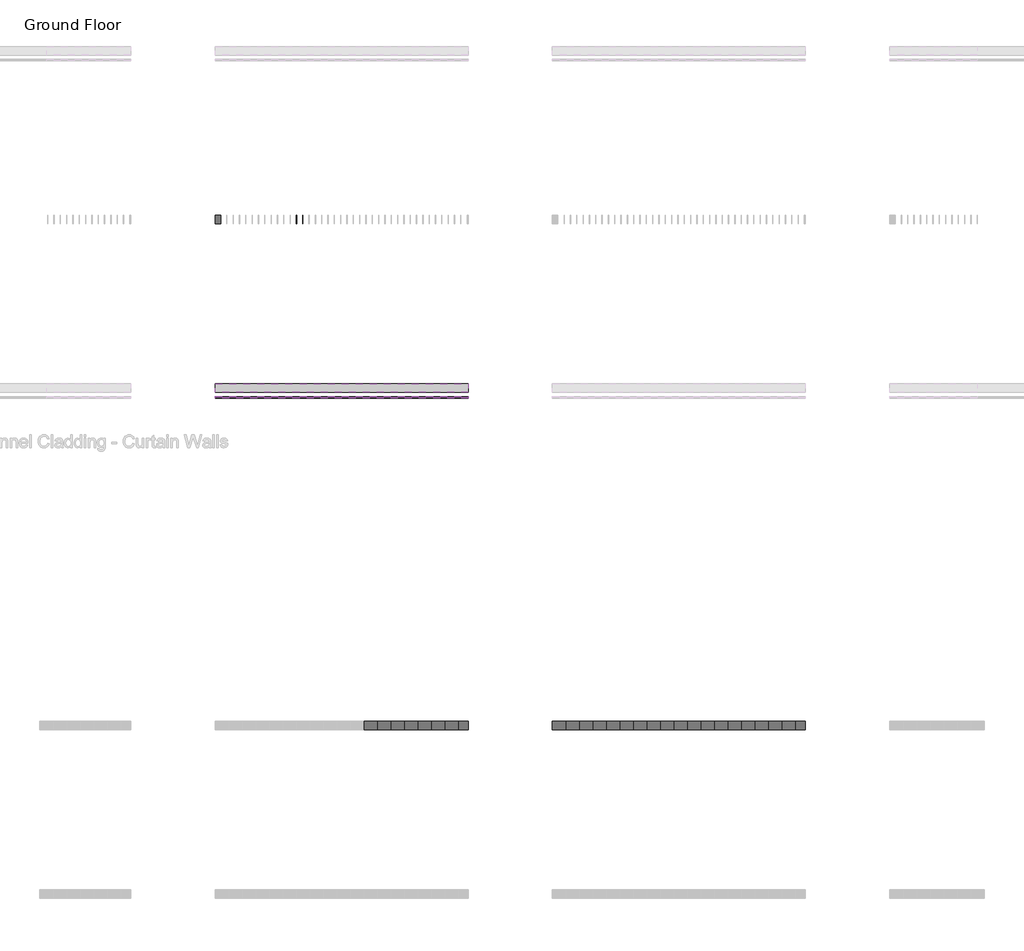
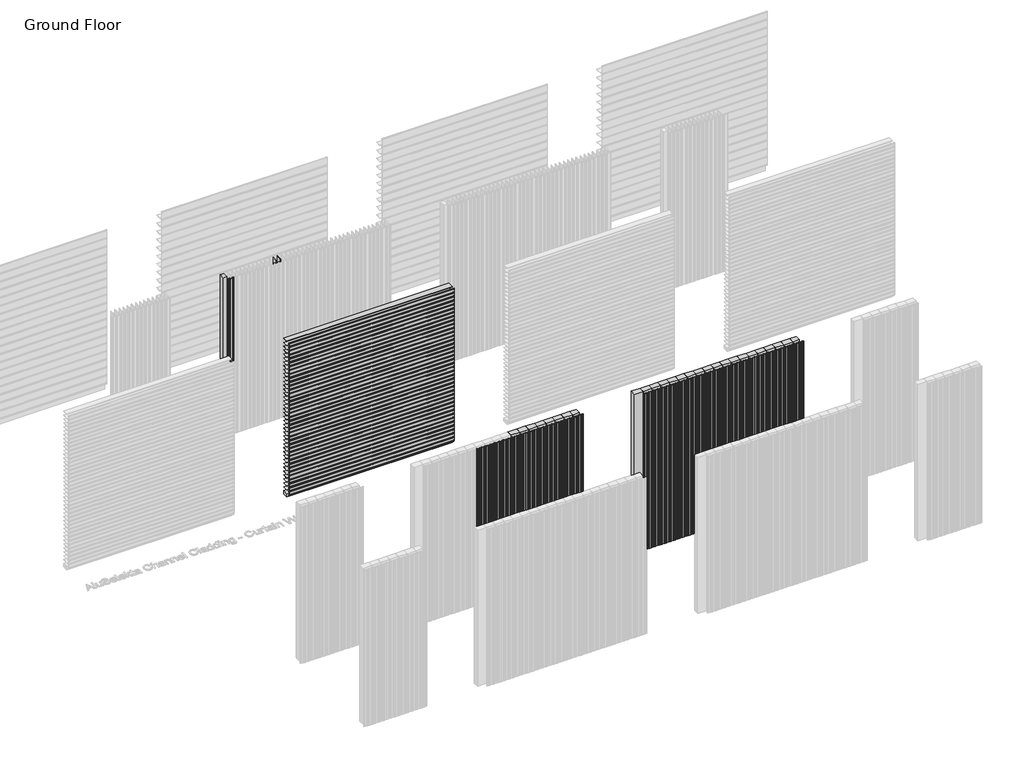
# One storey, part 29 of 350: 70 members, 70 plates.
"""IFC4 building model written with IfcOpenShell, lengths in millimetres."""

from ifc_helpers import new_model, si_unit, origin, place, context, project, spatial, transform, mapped, element, save
from components import rectangular_mullion_73ab8564, rectangular_mullion_894c3da7, empty_system_panel_empty_02c6fd44, empty_system_panel_empty_3b645525, empty_system_panel_empty_df7ddcff, empty_system_panel_empty_81cf2ed3, empty_system_panel_empty_a36746fc, empty_system_panel_empty_86793474, empty_system_panel_empty_27b459cb

model = new_model("IFC4")

# Units and contexts
model_context = context("Model", 3, world=origin())
ifc_project = project(units=[si_unit("LENGTHUNIT", "METRE", prefix="MILLI")], contexts=[model_context])

# Site, building, storey
site = spatial("IfcSite", under=ifc_project)
building = spatial("IfcBuilding", under=site)
storey = spatial("IfcBuildingStorey", under=building, Name="Ground Floor", Elevation=0.0)

# Members
placement = place(None, origin())
rectangular_mullion_shape = rectangular_mullion_73ab8564(model_context)
element("IfcMember", 1, ObjectType="Rectangular Mullion : Cladding_Aluminium_Modinex_AluSelekta_Castelation_ScreenClad_160Ultra_Cedar", at=placement, inside=storey, context=model_context, shape_type="MappedRepresentation", body=[
    mapped(rectangular_mullion_shape, transform((34036.4361642, 8968.2978302, 0.0), x_axis=(1.0, 0.0, 0.0), y_axis=(0.0, -1.0, 0.0), z_axis=(0.0, 0.0, -1.0))),
])
element("IfcMember", 2, ObjectType="Rectangular Mullion : Cladding_Aluminium_Modinex_AluSelekta_Castelation_ScreenClad_160Ultra_Cedar", at=placement, inside=storey, context=model_context, shape_type="MappedRepresentation", body=[
    mapped(rectangular_mullion_shape, transform((34196.4361642, 8968.2978302, 0.0), x_axis=(1.0, 0.0, 0.0), y_axis=(0.0, -1.0, 0.0), z_axis=(0.0, 0.0, -1.0))),
])
element("IfcMember", 3, ObjectType="Rectangular Mullion : Cladding_Aluminium_Modinex_AluSelekta_Castelation_ScreenClad_160Ultra_Cedar", at=placement, inside=storey, context=model_context, shape_type="MappedRepresentation", body=[
    mapped(rectangular_mullion_shape, transform((34356.4361642, 8968.2978302, 0.0), x_axis=(1.0, 0.0, 0.0), y_axis=(0.0, -1.0, 0.0), z_axis=(0.0, 0.0, -1.0))),
])
element("IfcMember", 4, ObjectType="Rectangular Mullion : Cladding_Aluminium_Modinex_AluSelekta_Castelation_ScreenClad_160Ultra_Cedar", at=placement, inside=storey, context=model_context, shape_type="MappedRepresentation", body=[
    mapped(rectangular_mullion_shape, transform((34516.4361642, 8968.2978302, 0.0), x_axis=(1.0, 0.0, 0.0), y_axis=(0.0, -1.0, 0.0), z_axis=(0.0, 0.0, -1.0))),
])
element("IfcMember", 5, ObjectType="Rectangular Mullion : Cladding_Aluminium_Modinex_AluSelekta_Castelation_ScreenClad_160Ultra_Cedar", at=placement, inside=storey, context=model_context, shape_type="MappedRepresentation", body=[
    mapped(rectangular_mullion_shape, transform((34676.4361642, 8968.2978302, 0.0), x_axis=(1.0, 0.0, 0.0), y_axis=(0.0, -1.0, 0.0), z_axis=(0.0, 0.0, -1.0))),
])
element("IfcMember", 6, ObjectType="Rectangular Mullion : Cladding_Aluminium_Modinex_AluSelekta_Castelation_ScreenClad_160Ultra_Cedar", at=placement, inside=storey, context=model_context, shape_type="MappedRepresentation", body=[
    mapped(rectangular_mullion_shape, transform((34836.4361642, 8968.2978302, 0.0), x_axis=(1.0, 0.0, 0.0), y_axis=(0.0, -1.0, 0.0), z_axis=(0.0, 0.0, -1.0))),
])
element("IfcMember", 7, ObjectType="Rectangular Mullion : Cladding_Aluminium_Modinex_AluSelekta_Castelation_ScreenClad_160Ultra_Cedar", at=placement, inside=storey, context=model_context, shape_type="MappedRepresentation", body=[
    mapped(rectangular_mullion_shape, transform((34996.4361642, 8968.2978302, 0.0), x_axis=(1.0, 0.0, 0.0), y_axis=(0.0, -1.0, 0.0), z_axis=(0.0, 0.0, -1.0))),
])
element("IfcMember", 8, ObjectType="Rectangular Mullion : Cladding_Aluminium_Modinex_AluSelekta_Castelation_ScreenClad_160Ultra_Cedar", at=placement, inside=storey, context=model_context, shape_type="MappedRepresentation", body=[
    mapped(rectangular_mullion_shape, transform((35156.4361642, 8968.2978302, 0.0), x_axis=(1.0, 0.0, 0.0), y_axis=(0.0, -1.0, 0.0), z_axis=(0.0, 0.0, -1.0))),
])
element("IfcMember", 9, ObjectType="Rectangular Mullion : Cladding_Aluminium_Modinex_AluSelekta_Castelation_ScreenClad_160Ultra_Cedar", at=placement, inside=storey, context=model_context, shape_type="MappedRepresentation", body=[
    mapped(rectangular_mullion_shape, transform((35316.4361642, 8968.2978302, 0.0), x_axis=(1.0, 0.0, 0.0), y_axis=(0.0, -1.0, 0.0), z_axis=(0.0, 0.0, -1.0))),
])
element("IfcMember", 10, ObjectType="Rectangular Mullion : Cladding_Aluminium_Modinex_AluSelekta_Castelation_ScreenClad_160Ultra_Cedar", at=placement, inside=storey, context=model_context, shape_type="MappedRepresentation", body=[
    mapped(rectangular_mullion_shape, transform((35476.4361642, 8968.2978302, 0.0), x_axis=(1.0, 0.0, 0.0), y_axis=(0.0, -1.0, 0.0), z_axis=(0.0, 0.0, -1.0))),
])
element("IfcMember", 11, ObjectType="Rectangular Mullion : Cladding_Aluminium_Modinex_AluSelekta_Castelation_ScreenClad_160Ultra_Cedar", at=placement, inside=storey, context=model_context, shape_type="MappedRepresentation", body=[
    mapped(rectangular_mullion_shape, transform((35636.4361642, 8968.2978302, 0.0), x_axis=(1.0, 0.0, 0.0), y_axis=(0.0, -1.0, 0.0), z_axis=(0.0, 0.0, -1.0))),
])
element("IfcMember", 12, ObjectType="Rectangular Mullion : Cladding_Aluminium_Modinex_AluSelekta_Castelation_ScreenClad_160Ultra_Cedar", at=placement, inside=storey, context=model_context, shape_type="MappedRepresentation", body=[
    mapped(rectangular_mullion_shape, transform((35796.4361642, 8968.2978302, 0.0), x_axis=(1.0, 0.0, 0.0), y_axis=(0.0, -1.0, 0.0), z_axis=(0.0, 0.0, -1.0))),
])
element("IfcMember", 13, ObjectType="Rectangular Mullion : Cladding_Aluminium_Modinex_AluSelekta_Castelation_ScreenClad_160Ultra_EnglishOak", at=placement, inside=storey, context=model_context, shape_type="MappedRepresentation", body=[
    mapped(rectangular_mullion_shape, transform((37076.4361642, 8968.2978302, 0.0), x_axis=(1.0, 0.0, 0.0), y_axis=(0.0, -1.0, 0.0), z_axis=(0.0, 0.0, -1.0))),
])
element("IfcMember", 14, ObjectType="Rectangular Mullion : Cladding_Aluminium_Modinex_AluSelekta_Castelation_ScreenClad_160Ultra_EnglishOak", at=placement, inside=storey, context=model_context, shape_type="MappedRepresentation", body=[
    mapped(rectangular_mullion_shape, transform((37236.4361642, 8968.2978302, 0.0), x_axis=(1.0, 0.0, 0.0), y_axis=(0.0, -1.0, 0.0), z_axis=(0.0, 0.0, -1.0))),
])
element("IfcMember", 15, ObjectType="Rectangular Mullion : Cladding_Aluminium_Modinex_AluSelekta_Castelation_ScreenClad_160Ultra_EnglishOak", at=placement, inside=storey, context=model_context, shape_type="MappedRepresentation", body=[
    mapped(rectangular_mullion_shape, transform((37396.4361642, 8968.2978302, 0.0), x_axis=(1.0, 0.0, 0.0), y_axis=(0.0, -1.0, 0.0), z_axis=(0.0, 0.0, -1.0))),
])
element("IfcMember", 16, ObjectType="Rectangular Mullion : Cladding_Aluminium_Modinex_AluSelekta_Castelation_ScreenClad_160Ultra_EnglishOak", at=placement, inside=storey, context=model_context, shape_type="MappedRepresentation", body=[
    mapped(rectangular_mullion_shape, transform((37556.4361642, 8968.2978302, 0.0), x_axis=(1.0, 0.0, 0.0), y_axis=(0.0, -1.0, 0.0), z_axis=(0.0, 0.0, -1.0))),
])
element("IfcMember", 17, ObjectType="Rectangular Mullion : Cladding_Aluminium_Modinex_AluSelekta_Castelation_ScreenClad_160Ultra_EnglishOak", at=placement, inside=storey, context=model_context, shape_type="MappedRepresentation", body=[
    mapped(rectangular_mullion_shape, transform((37716.4361642, 8968.2978302, 0.0), x_axis=(1.0, 0.0, 0.0), y_axis=(0.0, -1.0, 0.0), z_axis=(0.0, 0.0, -1.0))),
])
element("IfcMember", 18, ObjectType="Rectangular Mullion : Cladding_Aluminium_Modinex_AluSelekta_Castelation_ScreenClad_160Ultra_EnglishOak", at=placement, inside=storey, context=model_context, shape_type="MappedRepresentation", body=[
    mapped(rectangular_mullion_shape, transform((37876.4361642, 8968.2978302, 0.0), x_axis=(1.0, 0.0, 0.0), y_axis=(0.0, -1.0, 0.0), z_axis=(0.0, 0.0, -1.0))),
])
element("IfcMember", 19, ObjectType="Rectangular Mullion : Cladding_Aluminium_Modinex_AluSelekta_Castelation_ScreenClad_160Ultra_EnglishOak", at=placement, inside=storey, context=model_context, shape_type="MappedRepresentation", body=[
    mapped(rectangular_mullion_shape, transform((38036.4361642, 8968.2978302, 0.0), x_axis=(1.0, 0.0, 0.0), y_axis=(0.0, -1.0, 0.0), z_axis=(0.0, 0.0, -1.0))),
])
element("IfcMember", 20, ObjectType="Rectangular Mullion : Cladding_Aluminium_Modinex_AluSelekta_Castelation_ScreenClad_160Ultra_EnglishOak", at=placement, inside=storey, context=model_context, shape_type="MappedRepresentation", body=[
    mapped(rectangular_mullion_shape, transform((38196.4361642, 8968.2978302, 0.0), x_axis=(1.0, 0.0, 0.0), y_axis=(0.0, -1.0, 0.0), z_axis=(0.0, 0.0, -1.0))),
])
element("IfcMember", 21, ObjectType="Rectangular Mullion : Cladding_Aluminium_Modinex_AluSelekta_Castelation_ScreenClad_160Ultra_EnglishOak", at=placement, inside=storey, context=model_context, shape_type="MappedRepresentation", body=[
    mapped(rectangular_mullion_shape, transform((38356.4361642, 8968.2978302, 0.0), x_axis=(1.0, 0.0, 0.0), y_axis=(0.0, -1.0, 0.0), z_axis=(0.0, 0.0, -1.0))),
])
element("IfcMember", 22, ObjectType="Rectangular Mullion : Cladding_Aluminium_Modinex_AluSelekta_Castelation_ScreenClad_160Ultra_EnglishOak", at=placement, inside=storey, context=model_context, shape_type="MappedRepresentation", body=[
    mapped(rectangular_mullion_shape, transform((38516.4361642, 8968.2978302, 0.0), x_axis=(1.0, 0.0, 0.0), y_axis=(0.0, -1.0, 0.0), z_axis=(0.0, 0.0, -1.0))),
])
element("IfcMember", 23, ObjectType="Rectangular Mullion : Cladding_Aluminium_Modinex_AluSelekta_Castelation_ScreenClad_160Ultra_EnglishOak", at=placement, inside=storey, context=model_context, shape_type="MappedRepresentation", body=[
    mapped(rectangular_mullion_shape, transform((38676.4361642, 8968.2978302, 0.0), x_axis=(1.0, 0.0, 0.0), y_axis=(0.0, -1.0, 0.0), z_axis=(0.0, 0.0, -1.0))),
])
element("IfcMember", 24, ObjectType="Rectangular Mullion : Cladding_Aluminium_Modinex_AluSelekta_Castelation_ScreenClad_160Ultra_EnglishOak", at=placement, inside=storey, context=model_context, shape_type="MappedRepresentation", body=[
    mapped(rectangular_mullion_shape, transform((38836.4361642, 8968.2978302, 0.0), x_axis=(1.0, 0.0, 0.0), y_axis=(0.0, -1.0, 0.0), z_axis=(0.0, 0.0, -1.0))),
])
element("IfcMember", 25, ObjectType="Rectangular Mullion : Cladding_Aluminium_Modinex_AluSelekta_Castelation_ScreenClad_160Ultra_EnglishOak", at=placement, inside=storey, context=model_context, shape_type="MappedRepresentation", body=[
    mapped(rectangular_mullion_shape, transform((38996.4361642, 8968.2978302, 0.0), x_axis=(1.0, 0.0, 0.0), y_axis=(0.0, -1.0, 0.0), z_axis=(0.0, 0.0, -1.0))),
])
element("IfcMember", 26, ObjectType="Rectangular Mullion : Cladding_Aluminium_Modinex_AluSelekta_Castelation_ScreenClad_160Ultra_EnglishOak", at=placement, inside=storey, context=model_context, shape_type="MappedRepresentation", body=[
    mapped(rectangular_mullion_shape, transform((39156.4361642, 8968.2978302, 0.0), x_axis=(1.0, 0.0, 0.0), y_axis=(0.0, -1.0, 0.0), z_axis=(0.0, 0.0, -1.0))),
])
element("IfcMember", 27, ObjectType="Rectangular Mullion : Cladding_Aluminium_Modinex_AluSelekta_Castelation_ScreenClad_160Ultra_EnglishOak", at=placement, inside=storey, context=model_context, shape_type="MappedRepresentation", body=[
    mapped(rectangular_mullion_shape, transform((39316.4361642, 8968.2978302, 0.0), x_axis=(1.0, 0.0, 0.0), y_axis=(0.0, -1.0, 0.0), z_axis=(0.0, 0.0, -1.0))),
])
element("IfcMember", 28, ObjectType="Rectangular Mullion : Cladding_Aluminium_Modinex_AluSelekta_Castelation_ScreenClad_160Ultra_EnglishOak", at=placement, inside=storey, context=model_context, shape_type="MappedRepresentation", body=[
    mapped(rectangular_mullion_shape, transform((39476.4361642, 8968.2978302, 0.0), x_axis=(1.0, 0.0, 0.0), y_axis=(0.0, -1.0, 0.0), z_axis=(0.0, 0.0, -1.0))),
])
element("IfcMember", 29, ObjectType="Rectangular Mullion : Cladding_Aluminium_Modinex_AluSelekta_Castelation_ScreenClad_160Ultra_EnglishOak", at=placement, inside=storey, context=model_context, shape_type="MappedRepresentation", body=[
    mapped(rectangular_mullion_shape, transform((39636.4361642, 8968.2978302, 0.0), x_axis=(1.0, 0.0, 0.0), y_axis=(0.0, -1.0, 0.0), z_axis=(0.0, 0.0, -1.0))),
])
element("IfcMember", 30, ObjectType="Rectangular Mullion : Cladding_Aluminium_Modinex_AluSelekta_Castelation_ScreenClad_160Ultra_EnglishOak", at=placement, inside=storey, context=model_context, shape_type="MappedRepresentation", body=[
    mapped(rectangular_mullion_shape, transform((39796.4361642, 8968.2978302, 0.0), x_axis=(1.0, 0.0, 0.0), y_axis=(0.0, -1.0, 0.0), z_axis=(0.0, 0.0, -1.0))),
])
rectangular_mullion_2_shape = rectangular_mullion_894c3da7(model_context)
element("IfcMember", 31, ObjectType="Rectangular Mullion : Cladding_Aluminium_Modinex_AluSelekta_Channel_75_Cedar", at=placement, inside=storey, context=model_context, shape_type="MappedRepresentation", body=[
    mapped(rectangular_mullion_2_shape, transform((35916.4361639, 12968.2978302, 75.0), x_axis=(0.0, 0.0, 1.0), y_axis=(0.0, -1.0, 0.0), z_axis=(1.0, 0.0, 0.0))),
])
element("IfcMember", 32, ObjectType="Rectangular Mullion : Cladding_Aluminium_Modinex_AluSelekta_Channel_75_Cedar", at=placement, inside=storey, context=model_context, shape_type="MappedRepresentation", body=[
    mapped(rectangular_mullion_2_shape, transform((35916.4361639, 12968.2978302, 150.0), x_axis=(0.0, 0.0, 1.0), y_axis=(0.0, -1.0, 0.0), z_axis=(1.0, 0.0, 0.0))),
])
element("IfcMember", 33, ObjectType="Rectangular Mullion : Cladding_Aluminium_Modinex_AluSelekta_Channel_75_Cedar", at=placement, inside=storey, context=model_context, shape_type="MappedRepresentation", body=[
    mapped(rectangular_mullion_2_shape, transform((35916.4361639, 12968.2978302, 225.0), x_axis=(0.0, 0.0, 1.0), y_axis=(0.0, -1.0, 0.0), z_axis=(1.0, 0.0, 0.0))),
])
element("IfcMember", 34, ObjectType="Rectangular Mullion : Cladding_Aluminium_Modinex_AluSelekta_Channel_75_Cedar", at=placement, inside=storey, context=model_context, shape_type="MappedRepresentation", body=[
    mapped(rectangular_mullion_2_shape, transform((35916.4361639, 12968.2978302, 300.0), x_axis=(0.0, 0.0, 1.0), y_axis=(0.0, -1.0, 0.0), z_axis=(1.0, 0.0, 0.0))),
])
element("IfcMember", 35, ObjectType="Rectangular Mullion : Cladding_Aluminium_Modinex_AluSelekta_Channel_75_Cedar", at=placement, inside=storey, context=model_context, shape_type="MappedRepresentation", body=[
    mapped(rectangular_mullion_2_shape, transform((35916.4361639, 12968.2978302, 375.0), x_axis=(0.0, 0.0, 1.0), y_axis=(0.0, -1.0, 0.0), z_axis=(1.0, 0.0, 0.0))),
])
element("IfcMember", 36, ObjectType="Rectangular Mullion : Cladding_Aluminium_Modinex_AluSelekta_Channel_75_Cedar", at=placement, inside=storey, context=model_context, shape_type="MappedRepresentation", body=[
    mapped(rectangular_mullion_2_shape, transform((35916.4361639, 12968.2978302, 450.0), x_axis=(0.0, 0.0, 1.0), y_axis=(0.0, -1.0, 0.0), z_axis=(1.0, 0.0, 0.0))),
])
element("IfcMember", 37, ObjectType="Rectangular Mullion : Cladding_Aluminium_Modinex_AluSelekta_Channel_75_Cedar", at=placement, inside=storey, context=model_context, shape_type="MappedRepresentation", body=[
    mapped(rectangular_mullion_2_shape, transform((35916.4361639, 12968.2978302, 525.0), x_axis=(0.0, 0.0, 1.0), y_axis=(0.0, -1.0, 0.0), z_axis=(1.0, 0.0, 0.0))),
])
element("IfcMember", 38, ObjectType="Rectangular Mullion : Cladding_Aluminium_Modinex_AluSelekta_Channel_75_Cedar", at=placement, inside=storey, context=model_context, shape_type="MappedRepresentation", body=[
    mapped(rectangular_mullion_2_shape, transform((35916.4361639, 12968.2978302, 600.0), x_axis=(0.0, 0.0, 1.0), y_axis=(0.0, -1.0, 0.0), z_axis=(1.0, 0.0, 0.0))),
])
element("IfcMember", 39, ObjectType="Rectangular Mullion : Cladding_Aluminium_Modinex_AluSelekta_Channel_75_Cedar", at=placement, inside=storey, context=model_context, shape_type="MappedRepresentation", body=[
    mapped(rectangular_mullion_2_shape, transform((35916.4361639, 12968.2978302, 675.0), x_axis=(0.0, 0.0, 1.0), y_axis=(0.0, -1.0, 0.0), z_axis=(1.0, 0.0, 0.0))),
])
element("IfcMember", 40, ObjectType="Rectangular Mullion : Cladding_Aluminium_Modinex_AluSelekta_Channel_75_Cedar", at=placement, inside=storey, context=model_context, shape_type="MappedRepresentation", body=[
    mapped(rectangular_mullion_2_shape, transform((35916.4361639, 12968.2978302, 750.0), x_axis=(0.0, 0.0, 1.0), y_axis=(0.0, -1.0, 0.0), z_axis=(1.0, 0.0, 0.0))),
])
element("IfcMember", 41, ObjectType="Rectangular Mullion : Cladding_Aluminium_Modinex_AluSelekta_Channel_75_Cedar", at=placement, inside=storey, context=model_context, shape_type="MappedRepresentation", body=[
    mapped(rectangular_mullion_2_shape, transform((35916.4361639, 12968.2978302, 825.0), x_axis=(0.0, 0.0, 1.0), y_axis=(0.0, -1.0, 0.0), z_axis=(1.0, 0.0, 0.0))),
])
element("IfcMember", 42, ObjectType="Rectangular Mullion : Cladding_Aluminium_Modinex_AluSelekta_Channel_75_Cedar", at=placement, inside=storey, context=model_context, shape_type="MappedRepresentation", body=[
    mapped(rectangular_mullion_2_shape, transform((35916.4361639, 12968.2978302, 900.0), x_axis=(0.0, 0.0, 1.0), y_axis=(0.0, -1.0, 0.0), z_axis=(1.0, 0.0, 0.0))),
])
element("IfcMember", 43, ObjectType="Rectangular Mullion : Cladding_Aluminium_Modinex_AluSelekta_Channel_75_Cedar", at=placement, inside=storey, context=model_context, shape_type="MappedRepresentation", body=[
    mapped(rectangular_mullion_2_shape, transform((35916.4361639, 12968.2978302, 975.0), x_axis=(0.0, 0.0, 1.0), y_axis=(0.0, -1.0, 0.0), z_axis=(1.0, 0.0, 0.0))),
])
element("IfcMember", 44, ObjectType="Rectangular Mullion : Cladding_Aluminium_Modinex_AluSelekta_Channel_75_Cedar", at=placement, inside=storey, context=model_context, shape_type="MappedRepresentation", body=[
    mapped(rectangular_mullion_2_shape, transform((35916.4361639, 12968.2978302, 1050.0), x_axis=(0.0, 0.0, 1.0), y_axis=(0.0, -1.0, 0.0), z_axis=(1.0, 0.0, 0.0))),
])
element("IfcMember", 45, ObjectType="Rectangular Mullion : Cladding_Aluminium_Modinex_AluSelekta_Channel_75_Cedar", at=placement, inside=storey, context=model_context, shape_type="MappedRepresentation", body=[
    mapped(rectangular_mullion_2_shape, transform((35916.4361639, 12968.2978302, 1125.0), x_axis=(0.0, 0.0, 1.0), y_axis=(0.0, -1.0, 0.0), z_axis=(1.0, 0.0, 0.0))),
])
element("IfcMember", 46, ObjectType="Rectangular Mullion : Cladding_Aluminium_Modinex_AluSelekta_Channel_75_Cedar", at=placement, inside=storey, context=model_context, shape_type="MappedRepresentation", body=[
    mapped(rectangular_mullion_2_shape, transform((35916.4361639, 12968.2978302, 1200.0), x_axis=(0.0, 0.0, 1.0), y_axis=(0.0, -1.0, 0.0), z_axis=(1.0, 0.0, 0.0))),
])
element("IfcMember", 47, ObjectType="Rectangular Mullion : Cladding_Aluminium_Modinex_AluSelekta_Channel_75_Cedar", at=placement, inside=storey, context=model_context, shape_type="MappedRepresentation", body=[
    mapped(rectangular_mullion_2_shape, transform((35916.4361639, 12968.2978302, 1275.0), x_axis=(0.0, 0.0, 1.0), y_axis=(0.0, -1.0, 0.0), z_axis=(1.0, 0.0, 0.0))),
])
element("IfcMember", 48, ObjectType="Rectangular Mullion : Cladding_Aluminium_Modinex_AluSelekta_Channel_75_Cedar", at=placement, inside=storey, context=model_context, shape_type="MappedRepresentation", body=[
    mapped(rectangular_mullion_2_shape, transform((35916.4361639, 12968.2978302, 1350.0), x_axis=(0.0, 0.0, 1.0), y_axis=(0.0, -1.0, 0.0), z_axis=(1.0, 0.0, 0.0))),
])
element("IfcMember", 49, ObjectType="Rectangular Mullion : Cladding_Aluminium_Modinex_AluSelekta_Channel_75_Cedar", at=placement, inside=storey, context=model_context, shape_type="MappedRepresentation", body=[
    mapped(rectangular_mullion_2_shape, transform((35916.4361639, 12968.2978302, 1425.0), x_axis=(0.0, 0.0, 1.0), y_axis=(0.0, -1.0, 0.0), z_axis=(1.0, 0.0, 0.0))),
])
element("IfcMember", 50, ObjectType="Rectangular Mullion : Cladding_Aluminium_Modinex_AluSelekta_Channel_75_Cedar", at=placement, inside=storey, context=model_context, shape_type="MappedRepresentation", body=[
    mapped(rectangular_mullion_2_shape, transform((35916.4361639, 12968.2978302, 1500.0), x_axis=(0.0, 0.0, 1.0), y_axis=(0.0, -1.0, 0.0), z_axis=(1.0, 0.0, 0.0))),
])
element("IfcMember", 51, ObjectType="Rectangular Mullion : Cladding_Aluminium_Modinex_AluSelekta_Channel_75_Cedar", at=placement, inside=storey, context=model_context, shape_type="MappedRepresentation", body=[
    mapped(rectangular_mullion_2_shape, transform((35916.4361639, 12968.2978302, 1575.0), x_axis=(0.0, 0.0, 1.0), y_axis=(0.0, -1.0, 0.0), z_axis=(1.0, 0.0, 0.0))),
])
element("IfcMember", 52, ObjectType="Rectangular Mullion : Cladding_Aluminium_Modinex_AluSelekta_Channel_75_Cedar", at=placement, inside=storey, context=model_context, shape_type="MappedRepresentation", body=[
    mapped(rectangular_mullion_2_shape, transform((35916.4361639, 12968.2978302, 1650.0), x_axis=(0.0, 0.0, 1.0), y_axis=(0.0, -1.0, 0.0), z_axis=(1.0, 0.0, 0.0))),
])
element("IfcMember", 53, ObjectType="Rectangular Mullion : Cladding_Aluminium_Modinex_AluSelekta_Channel_75_Cedar", at=placement, inside=storey, context=model_context, shape_type="MappedRepresentation", body=[
    mapped(rectangular_mullion_2_shape, transform((35916.4361639, 12968.2978302, 1725.0), x_axis=(0.0, 0.0, 1.0), y_axis=(0.0, -1.0, 0.0), z_axis=(1.0, 0.0, 0.0))),
])
element("IfcMember", 54, ObjectType="Rectangular Mullion : Cladding_Aluminium_Modinex_AluSelekta_Channel_75_Cedar", at=placement, inside=storey, context=model_context, shape_type="MappedRepresentation", body=[
    mapped(rectangular_mullion_2_shape, transform((35916.4361639, 12968.2978302, 1800.0), x_axis=(0.0, 0.0, 1.0), y_axis=(0.0, -1.0, 0.0), z_axis=(1.0, 0.0, 0.0))),
])
element("IfcMember", 55, ObjectType="Rectangular Mullion : Cladding_Aluminium_Modinex_AluSelekta_Channel_75_Cedar", at=placement, inside=storey, context=model_context, shape_type="MappedRepresentation", body=[
    mapped(rectangular_mullion_2_shape, transform((35916.4361639, 12968.2978302, 1875.0), x_axis=(0.0, 0.0, 1.0), y_axis=(0.0, -1.0, 0.0), z_axis=(1.0, 0.0, 0.0))),
])
element("IfcMember", 56, ObjectType="Rectangular Mullion : Cladding_Aluminium_Modinex_AluSelekta_Channel_75_Cedar", at=placement, inside=storey, context=model_context, shape_type="MappedRepresentation", body=[
    mapped(rectangular_mullion_2_shape, transform((35916.4361639, 12968.2978302, 1950.0), x_axis=(0.0, 0.0, 1.0), y_axis=(0.0, -1.0, 0.0), z_axis=(1.0, 0.0, 0.0))),
])
element("IfcMember", 57, ObjectType="Rectangular Mullion : Cladding_Aluminium_Modinex_AluSelekta_Channel_75_Cedar", at=placement, inside=storey, context=model_context, shape_type="MappedRepresentation", body=[
    mapped(rectangular_mullion_2_shape, transform((35916.4361639, 12968.2978302, 2025.0), x_axis=(0.0, 0.0, 1.0), y_axis=(0.0, -1.0, 0.0), z_axis=(1.0, 0.0, 0.0))),
])
element("IfcMember", 58, ObjectType="Rectangular Mullion : Cladding_Aluminium_Modinex_AluSelekta_Channel_75_Cedar", at=placement, inside=storey, context=model_context, shape_type="MappedRepresentation", body=[
    mapped(rectangular_mullion_2_shape, transform((35916.4361639, 12968.2978302, 2100.0), x_axis=(0.0, 0.0, 1.0), y_axis=(0.0, -1.0, 0.0), z_axis=(1.0, 0.0, 0.0))),
])
element("IfcMember", 59, ObjectType="Rectangular Mullion : Cladding_Aluminium_Modinex_AluSelekta_Channel_75_Cedar", at=placement, inside=storey, context=model_context, shape_type="MappedRepresentation", body=[
    mapped(rectangular_mullion_2_shape, transform((35916.4361639, 12968.2978302, 2175.0), x_axis=(0.0, 0.0, 1.0), y_axis=(0.0, -1.0, 0.0), z_axis=(1.0, 0.0, 0.0))),
])
element("IfcMember", 60, ObjectType="Rectangular Mullion : Cladding_Aluminium_Modinex_AluSelekta_Channel_75_Cedar", at=placement, inside=storey, context=model_context, shape_type="MappedRepresentation", body=[
    mapped(rectangular_mullion_2_shape, transform((35916.4361639, 12968.2978302, 2250.0), x_axis=(0.0, 0.0, 1.0), y_axis=(0.0, -1.0, 0.0), z_axis=(1.0, 0.0, 0.0))),
])
element("IfcMember", 61, ObjectType="Rectangular Mullion : Cladding_Aluminium_Modinex_AluSelekta_Channel_75_Cedar", at=placement, inside=storey, context=model_context, shape_type="MappedRepresentation", body=[
    mapped(rectangular_mullion_2_shape, transform((35916.4361639, 12968.2978302, 2325.0), x_axis=(0.0, 0.0, 1.0), y_axis=(0.0, -1.0, 0.0), z_axis=(1.0, 0.0, 0.0))),
])
element("IfcMember", 62, ObjectType="Rectangular Mullion : Cladding_Aluminium_Modinex_AluSelekta_Channel_75_Cedar", at=placement, inside=storey, context=model_context, shape_type="MappedRepresentation", body=[
    mapped(rectangular_mullion_2_shape, transform((35916.4361639, 12968.2978302, 2400.0), x_axis=(0.0, 0.0, 1.0), y_axis=(0.0, -1.0, 0.0), z_axis=(1.0, 0.0, 0.0))),
])
element("IfcMember", 63, ObjectType="Rectangular Mullion : Cladding_Aluminium_Modinex_AluSelekta_Channel_75_Cedar", at=placement, inside=storey, context=model_context, shape_type="MappedRepresentation", body=[
    mapped(rectangular_mullion_2_shape, transform((35916.4361639, 12968.2978302, 2475.0), x_axis=(0.0, 0.0, 1.0), y_axis=(0.0, -1.0, 0.0), z_axis=(1.0, 0.0, 0.0))),
])
element("IfcMember", 64, ObjectType="Rectangular Mullion : Cladding_Aluminium_Modinex_AluSelekta_Channel_75_Cedar", at=placement, inside=storey, context=model_context, shape_type="MappedRepresentation", body=[
    mapped(rectangular_mullion_2_shape, transform((35916.4361639, 12968.2978302, 2550.0), x_axis=(0.0, 0.0, 1.0), y_axis=(0.0, -1.0, 0.0), z_axis=(1.0, 0.0, 0.0))),
])
element("IfcMember", 65, ObjectType="Rectangular Mullion : Cladding_Aluminium_Modinex_AluSelekta_Channel_75_Cedar", at=placement, inside=storey, context=model_context, shape_type="MappedRepresentation", body=[
    mapped(rectangular_mullion_2_shape, transform((35916.4361639, 12968.2978302, 2625.0), x_axis=(0.0, 0.0, 1.0), y_axis=(0.0, -1.0, 0.0), z_axis=(1.0, 0.0, 0.0))),
])
element("IfcMember", 66, ObjectType="Rectangular Mullion : Cladding_Aluminium_Modinex_AluSelekta_Channel_75_Cedar", at=placement, inside=storey, context=model_context, shape_type="MappedRepresentation", body=[
    mapped(rectangular_mullion_2_shape, transform((35916.4361639, 12968.2978302, 2700.0), x_axis=(0.0, 0.0, 1.0), y_axis=(0.0, -1.0, 0.0), z_axis=(1.0, 0.0, 0.0))),
])
element("IfcMember", 67, ObjectType="Rectangular Mullion : Cladding_Aluminium_Modinex_AluSelekta_Channel_75_Cedar", at=placement, inside=storey, context=model_context, shape_type="MappedRepresentation", body=[
    mapped(rectangular_mullion_2_shape, transform((35916.4361639, 12968.2978302, 2775.0), x_axis=(0.0, 0.0, 1.0), y_axis=(0.0, -1.0, 0.0), z_axis=(1.0, 0.0, 0.0))),
])
element("IfcMember", 68, ObjectType="Rectangular Mullion : Cladding_Aluminium_Modinex_AluSelekta_Channel_75_Cedar", at=placement, inside=storey, context=model_context, shape_type="MappedRepresentation", body=[
    mapped(rectangular_mullion_2_shape, transform((35916.4361639, 12968.2978302, 2850.0), x_axis=(0.0, 0.0, 1.0), y_axis=(0.0, -1.0, 0.0), z_axis=(1.0, 0.0, 0.0))),
])
element("IfcMember", 69, ObjectType="Rectangular Mullion : Cladding_Aluminium_Modinex_AluSelekta_Channel_75_Cedar", at=placement, inside=storey, context=model_context, shape_type="MappedRepresentation", body=[
    mapped(rectangular_mullion_2_shape, transform((35916.4361639, 12968.2978302, 2925.0), x_axis=(0.0, 0.0, 1.0), y_axis=(0.0, -1.0, 0.0), z_axis=(1.0, 0.0, 0.0))),
])
element("IfcMember", 70, ObjectType="Rectangular Mullion : Cladding_Aluminium_Modinex_AluSelekta_Channel_75_Cedar", at=placement, inside=storey, context=model_context, shape_type="MappedRepresentation", body=[
    mapped(rectangular_mullion_2_shape, transform((32991.4361642, 14968.2978302, 0.0), x_axis=(1.0, 0.0, 0.0), y_axis=(0.0, -1.0, 0.0), z_axis=(0.0, 0.0, -1.0))),
])

# Plates
empty_system_panel_empty_shape = empty_system_panel_empty_02c6fd44(model_context)
element("IfcPlate", 71, ObjectType="Empty System Panel : Empty", at=placement, inside=storey, context=model_context, shape_type="MappedRepresentation", body=[
    mapped(empty_system_panel_empty_shape, transform((34416.4361639, 12968.2978302, 137.2580963), x_axis=(1.0, 0.0, 0.0), y_axis=(0.0, 1.0, 0.0), z_axis=(0.0, 0.0, 1.0))),
])
element("IfcPlate", 72, ObjectType="Empty System Panel : Empty", at=placement, inside=storey, context=model_context, shape_type="MappedRepresentation", body=[
    mapped(empty_system_panel_empty_shape, transform((34416.4361639, 12968.2978302, 212.2580963), x_axis=(1.0, 0.0, 0.0), y_axis=(0.0, 1.0, 0.0), z_axis=(0.0, 0.0, 1.0))),
])
element("IfcPlate", 73, ObjectType="Empty System Panel : Empty", at=placement, inside=storey, context=model_context, shape_type="MappedRepresentation", body=[
    mapped(empty_system_panel_empty_shape, transform((34416.4361639, 12968.2978302, 287.2580963), x_axis=(1.0, 0.0, 0.0), y_axis=(0.0, 1.0, 0.0), z_axis=(0.0, 0.0, 1.0))),
])
element("IfcPlate", 74, ObjectType="Empty System Panel : Empty", at=placement, inside=storey, context=model_context, shape_type="MappedRepresentation", body=[
    mapped(empty_system_panel_empty_shape, transform((34416.4361639, 12968.2978302, 362.2580963), x_axis=(1.0, 0.0, 0.0), y_axis=(0.0, 1.0, 0.0), z_axis=(0.0, 0.0, 1.0))),
])
element("IfcPlate", 75, ObjectType="Empty System Panel : Empty", at=placement, inside=storey, context=model_context, shape_type="MappedRepresentation", body=[
    mapped(empty_system_panel_empty_shape, transform((34416.4361639, 12968.2978302, 437.2580963), x_axis=(1.0, 0.0, 0.0), y_axis=(0.0, 1.0, 0.0), z_axis=(0.0, 0.0, 1.0))),
])
element("IfcPlate", 76, ObjectType="Empty System Panel : Empty", at=placement, inside=storey, context=model_context, shape_type="MappedRepresentation", body=[
    mapped(empty_system_panel_empty_shape, transform((34416.4361639, 12968.2978302, 512.2580963), x_axis=(1.0, 0.0, 0.0), y_axis=(0.0, 1.0, 0.0), z_axis=(0.0, 0.0, 1.0))),
])
element("IfcPlate", 77, ObjectType="Empty System Panel : Empty", at=placement, inside=storey, context=model_context, shape_type="MappedRepresentation", body=[
    mapped(empty_system_panel_empty_shape, transform((34416.4361639, 12968.2978302, 587.2580963), x_axis=(1.0, 0.0, 0.0), y_axis=(0.0, 1.0, 0.0), z_axis=(0.0, 0.0, 1.0))),
])
element("IfcPlate", 78, ObjectType="Empty System Panel : Empty", at=placement, inside=storey, context=model_context, shape_type="MappedRepresentation", body=[
    mapped(empty_system_panel_empty_shape, transform((34416.4361639, 12968.2978302, 662.2580963), x_axis=(1.0, 0.0, 0.0), y_axis=(0.0, 1.0, 0.0), z_axis=(0.0, 0.0, 1.0))),
])
element("IfcPlate", 79, ObjectType="Empty System Panel : Empty", at=placement, inside=storey, context=model_context, shape_type="MappedRepresentation", body=[
    mapped(empty_system_panel_empty_shape, transform((34416.4361639, 12968.2978302, 737.2580963), x_axis=(1.0, 0.0, 0.0), y_axis=(0.0, 1.0, 0.0), z_axis=(0.0, 0.0, 1.0))),
])
element("IfcPlate", 80, ObjectType="Empty System Panel : Empty", at=placement, inside=storey, context=model_context, shape_type="MappedRepresentation", body=[
    mapped(empty_system_panel_empty_shape, transform((34416.4361639, 12968.2978302, 812.2580963), x_axis=(1.0, 0.0, 0.0), y_axis=(0.0, 1.0, 0.0), z_axis=(0.0, 0.0, 1.0))),
])
element("IfcPlate", 81, ObjectType="Empty System Panel : Empty", at=placement, inside=storey, context=model_context, shape_type="MappedRepresentation", body=[
    mapped(empty_system_panel_empty_shape, transform((34416.4361639, 12968.2978302, 887.2580963), x_axis=(1.0, 0.0, 0.0), y_axis=(0.0, 1.0, 0.0), z_axis=(0.0, 0.0, 1.0))),
])
element("IfcPlate", 82, ObjectType="Empty System Panel : Empty", at=placement, inside=storey, context=model_context, shape_type="MappedRepresentation", body=[
    mapped(empty_system_panel_empty_shape, transform((34416.4361639, 12968.2978302, 962.2580963), x_axis=(1.0, 0.0, 0.0), y_axis=(0.0, 1.0, 0.0), z_axis=(0.0, 0.0, 1.0))),
])
element("IfcPlate", 83, ObjectType="Empty System Panel : Empty", at=placement, inside=storey, context=model_context, shape_type="MappedRepresentation", body=[
    mapped(empty_system_panel_empty_shape, transform((34416.4361639, 12968.2978302, 1037.2580963), x_axis=(1.0, 0.0, 0.0), y_axis=(0.0, 1.0, 0.0), z_axis=(0.0, 0.0, 1.0))),
])
element("IfcPlate", 84, ObjectType="Empty System Panel : Empty", at=placement, inside=storey, context=model_context, shape_type="MappedRepresentation", body=[
    mapped(empty_system_panel_empty_shape, transform((34416.4361639, 12968.2978302, 1112.2580963), x_axis=(1.0, 0.0, 0.0), y_axis=(0.0, 1.0, 0.0), z_axis=(0.0, 0.0, 1.0))),
])
element("IfcPlate", 85, ObjectType="Empty System Panel : Empty", at=placement, inside=storey, context=model_context, shape_type="MappedRepresentation", body=[
    mapped(empty_system_panel_empty_shape, transform((34416.4361639, 12968.2978302, 1187.2580963), x_axis=(1.0, 0.0, 0.0), y_axis=(0.0, 1.0, 0.0), z_axis=(0.0, 0.0, 1.0))),
])
element("IfcPlate", 86, ObjectType="Empty System Panel : Empty", at=placement, inside=storey, context=model_context, shape_type="MappedRepresentation", body=[
    mapped(empty_system_panel_empty_shape, transform((34416.4361639, 12968.2978302, 1262.2580963), x_axis=(1.0, 0.0, 0.0), y_axis=(0.0, 1.0, 0.0), z_axis=(0.0, 0.0, 1.0))),
])
element("IfcPlate", 87, ObjectType="Empty System Panel : Empty", at=placement, inside=storey, context=model_context, shape_type="MappedRepresentation", body=[
    mapped(empty_system_panel_empty_shape, transform((34416.4361639, 12968.2978302, 1337.2580963), x_axis=(1.0, 0.0, 0.0), y_axis=(0.0, 1.0, 0.0), z_axis=(0.0, 0.0, 1.0))),
])
element("IfcPlate", 88, ObjectType="Empty System Panel : Empty", at=placement, inside=storey, context=model_context, shape_type="MappedRepresentation", body=[
    mapped(empty_system_panel_empty_shape, transform((34416.4361639, 12968.2978302, 1412.2580963), x_axis=(1.0, 0.0, 0.0), y_axis=(0.0, 1.0, 0.0), z_axis=(0.0, 0.0, 1.0))),
])
element("IfcPlate", 89, ObjectType="Empty System Panel : Empty", at=placement, inside=storey, context=model_context, shape_type="MappedRepresentation", body=[
    mapped(empty_system_panel_empty_shape, transform((34416.4361639, 12968.2978302, 1487.2580963), x_axis=(1.0, 0.0, 0.0), y_axis=(0.0, 1.0, 0.0), z_axis=(0.0, 0.0, 1.0))),
])
element("IfcPlate", 90, ObjectType="Empty System Panel : Empty", at=placement, inside=storey, context=model_context, shape_type="MappedRepresentation", body=[
    mapped(empty_system_panel_empty_shape, transform((34416.4361639, 12968.2978302, 1562.2580963), x_axis=(1.0, 0.0, 0.0), y_axis=(0.0, 1.0, 0.0), z_axis=(0.0, 0.0, 1.0))),
])
element("IfcPlate", 91, ObjectType="Empty System Panel : Empty", at=placement, inside=storey, context=model_context, shape_type="MappedRepresentation", body=[
    mapped(empty_system_panel_empty_shape, transform((34416.4361639, 12968.2978302, 1637.2580963), x_axis=(1.0, 0.0, 0.0), y_axis=(0.0, 1.0, 0.0), z_axis=(0.0, 0.0, 1.0))),
])
element("IfcPlate", 92, ObjectType="Empty System Panel : Empty", at=placement, inside=storey, context=model_context, shape_type="MappedRepresentation", body=[
    mapped(empty_system_panel_empty_shape, transform((34416.4361639, 12968.2978302, 1712.2580963), x_axis=(1.0, 0.0, 0.0), y_axis=(0.0, 1.0, 0.0), z_axis=(0.0, 0.0, 1.0))),
])
element("IfcPlate", 93, ObjectType="Empty System Panel : Empty", at=placement, inside=storey, context=model_context, shape_type="MappedRepresentation", body=[
    mapped(empty_system_panel_empty_shape, transform((34416.4361639, 12968.2978302, 1787.2580963), x_axis=(1.0, 0.0, 0.0), y_axis=(0.0, 1.0, 0.0), z_axis=(0.0, 0.0, 1.0))),
])
element("IfcPlate", 94, ObjectType="Empty System Panel : Empty", at=placement, inside=storey, context=model_context, shape_type="MappedRepresentation", body=[
    mapped(empty_system_panel_empty_shape, transform((34416.4361639, 12968.2978302, 1862.2580963), x_axis=(1.0, 0.0, 0.0), y_axis=(0.0, 1.0, 0.0), z_axis=(0.0, 0.0, 1.0))),
])
element("IfcPlate", 95, ObjectType="Empty System Panel : Empty", at=placement, inside=storey, context=model_context, shape_type="MappedRepresentation", body=[
    mapped(empty_system_panel_empty_shape, transform((34416.4361639, 12968.2978302, 1937.2580963), x_axis=(1.0, 0.0, 0.0), y_axis=(0.0, 1.0, 0.0), z_axis=(0.0, 0.0, 1.0))),
])
element("IfcPlate", 96, ObjectType="Empty System Panel : Empty", at=placement, inside=storey, context=model_context, shape_type="MappedRepresentation", body=[
    mapped(empty_system_panel_empty_shape, transform((34416.4361639, 12968.2978302, 2012.2580963), x_axis=(1.0, 0.0, 0.0), y_axis=(0.0, 1.0, 0.0), z_axis=(0.0, 0.0, 1.0))),
])
element("IfcPlate", 97, ObjectType="Empty System Panel : Empty", at=placement, inside=storey, context=model_context, shape_type="MappedRepresentation", body=[
    mapped(empty_system_panel_empty_shape, transform((34416.4361639, 12968.2978302, 2087.2580963), x_axis=(1.0, 0.0, 0.0), y_axis=(0.0, 1.0, 0.0), z_axis=(0.0, 0.0, 1.0))),
])
element("IfcPlate", 98, ObjectType="Empty System Panel : Empty", at=placement, inside=storey, context=model_context, shape_type="MappedRepresentation", body=[
    mapped(empty_system_panel_empty_shape, transform((34416.4361639, 12968.2978302, 2162.2580963), x_axis=(1.0, 0.0, 0.0), y_axis=(0.0, 1.0, 0.0), z_axis=(0.0, 0.0, 1.0))),
])
element("IfcPlate", 99, ObjectType="Empty System Panel : Empty", at=placement, inside=storey, context=model_context, shape_type="MappedRepresentation", body=[
    mapped(empty_system_panel_empty_shape, transform((34416.4361639, 12968.2978302, 2237.2580963), x_axis=(1.0, 0.0, 0.0), y_axis=(0.0, 1.0, 0.0), z_axis=(0.0, 0.0, 1.0))),
])
element("IfcPlate", 100, ObjectType="Empty System Panel : Empty", at=placement, inside=storey, context=model_context, shape_type="MappedRepresentation", body=[
    mapped(empty_system_panel_empty_shape, transform((34416.4361639, 12968.2978302, 2312.2580963), x_axis=(1.0, 0.0, 0.0), y_axis=(0.0, 1.0, 0.0), z_axis=(0.0, 0.0, 1.0))),
])
element("IfcPlate", 101, ObjectType="Empty System Panel : Empty", at=placement, inside=storey, context=model_context, shape_type="MappedRepresentation", body=[
    mapped(empty_system_panel_empty_shape, transform((34416.4361639, 12968.2978302, 2387.2580963), x_axis=(1.0, 0.0, 0.0), y_axis=(0.0, 1.0, 0.0), z_axis=(0.0, 0.0, 1.0))),
])
element("IfcPlate", 102, ObjectType="Empty System Panel : Empty", at=placement, inside=storey, context=model_context, shape_type="MappedRepresentation", body=[
    mapped(empty_system_panel_empty_shape, transform((34416.4361639, 12968.2978302, 2462.2580963), x_axis=(1.0, 0.0, 0.0), y_axis=(0.0, 1.0, 0.0), z_axis=(0.0, 0.0, 1.0))),
])
element("IfcPlate", 103, ObjectType="Empty System Panel : Empty", at=placement, inside=storey, context=model_context, shape_type="MappedRepresentation", body=[
    mapped(empty_system_panel_empty_shape, transform((34416.4361639, 12968.2978302, 2537.2580963), x_axis=(1.0, 0.0, 0.0), y_axis=(0.0, 1.0, 0.0), z_axis=(0.0, 0.0, 1.0))),
])
element("IfcPlate", 104, ObjectType="Empty System Panel : Empty", at=placement, inside=storey, context=model_context, shape_type="MappedRepresentation", body=[
    mapped(empty_system_panel_empty_shape, transform((34416.4361639, 12968.2978302, 2612.2580963), x_axis=(1.0, 0.0, 0.0), y_axis=(0.0, 1.0, 0.0), z_axis=(0.0, 0.0, 1.0))),
])
element("IfcPlate", 105, ObjectType="Empty System Panel : Empty", at=placement, inside=storey, context=model_context, shape_type="MappedRepresentation", body=[
    mapped(empty_system_panel_empty_shape, transform((34416.4361639, 12968.2978302, 2687.2580963), x_axis=(1.0, 0.0, 0.0), y_axis=(0.0, 1.0, 0.0), z_axis=(0.0, 0.0, 1.0))),
])
element("IfcPlate", 106, ObjectType="Empty System Panel : Empty", at=placement, inside=storey, context=model_context, shape_type="MappedRepresentation", body=[
    mapped(empty_system_panel_empty_shape, transform((34416.4361639, 12968.2978302, 2762.2580963), x_axis=(1.0, 0.0, 0.0), y_axis=(0.0, 1.0, 0.0), z_axis=(0.0, 0.0, 1.0))),
])
element("IfcPlate", 107, ObjectType="Empty System Panel : Empty", at=placement, inside=storey, context=model_context, shape_type="MappedRepresentation", body=[
    mapped(empty_system_panel_empty_shape, transform((34416.4361639, 12968.2978302, 2837.2580963), x_axis=(1.0, 0.0, 0.0), y_axis=(0.0, 1.0, 0.0), z_axis=(0.0, 0.0, 1.0))),
])
element("IfcPlate", 108, ObjectType="Empty System Panel : Empty", at=placement, inside=storey, context=model_context, shape_type="MappedRepresentation", body=[
    mapped(empty_system_panel_empty_shape, transform((34416.4361639, 12968.2978302, 2912.2580963), x_axis=(1.0, 0.0, 0.0), y_axis=(0.0, 1.0, 0.0), z_axis=(0.0, 0.0, 1.0))),
])
empty_system_panel_empty_2_shape = empty_system_panel_empty_3b645525(model_context)
element("IfcPlate", 109, ObjectType="Empty System Panel : Empty", at=placement, inside=storey, context=model_context, shape_type="MappedRepresentation", body=[
    mapped(empty_system_panel_empty_2_shape, transform((34756.4361642, 8968.2978302, 0.0), x_axis=(1.0, 0.0, 0.0), y_axis=(0.0, 1.0, 0.0), z_axis=(0.0, 0.0, 1.0))),
])
element("IfcPlate", 110, ObjectType="Empty System Panel : Empty", at=placement, inside=storey, context=model_context, shape_type="MappedRepresentation", body=[
    mapped(empty_system_panel_empty_2_shape, transform((34916.4361642, 8968.2978302, 0.0), x_axis=(1.0, 0.0, 0.0), y_axis=(0.0, 1.0, 0.0), z_axis=(0.0, 0.0, 1.0))),
])
element("IfcPlate", 111, ObjectType="Empty System Panel : Empty", at=placement, inside=storey, context=model_context, shape_type="MappedRepresentation", body=[
    mapped(empty_system_panel_empty_2_shape, transform((35076.4361642, 8968.2978302, 0.0), x_axis=(1.0, 0.0, 0.0), y_axis=(0.0, 1.0, 0.0), z_axis=(0.0, 0.0, 1.0))),
])
element("IfcPlate", 112, ObjectType="Empty System Panel : Empty", at=placement, inside=storey, context=model_context, shape_type="MappedRepresentation", body=[
    mapped(empty_system_panel_empty_2_shape, transform((35236.4361642, 8968.2978302, 0.0), x_axis=(1.0, 0.0, 0.0), y_axis=(0.0, 1.0, 0.0), z_axis=(0.0, 0.0, 1.0))),
])
element("IfcPlate", 113, ObjectType="Empty System Panel : Empty", at=placement, inside=storey, context=model_context, shape_type="MappedRepresentation", body=[
    mapped(empty_system_panel_empty_2_shape, transform((35396.4361642, 8968.2978302, 0.0), x_axis=(1.0, 0.0, 0.0), y_axis=(0.0, 1.0, 0.0), z_axis=(0.0, 0.0, 1.0))),
])
element("IfcPlate", 114, ObjectType="Empty System Panel : Empty", at=placement, inside=storey, context=model_context, shape_type="MappedRepresentation", body=[
    mapped(empty_system_panel_empty_2_shape, transform((35556.4361642, 8968.2978302, 0.0), x_axis=(1.0, 0.0, 0.0), y_axis=(0.0, 1.0, 0.0), z_axis=(0.0, 0.0, 1.0))),
])
element("IfcPlate", 115, ObjectType="Empty System Panel : Empty", at=placement, inside=storey, context=model_context, shape_type="MappedRepresentation", body=[
    mapped(empty_system_panel_empty_2_shape, transform((35716.4361642, 8968.2978302, 0.0), x_axis=(1.0, 0.0, 0.0), y_axis=(0.0, 1.0, 0.0), z_axis=(0.0, 0.0, 1.0))),
])
element("IfcPlate", 116, ObjectType="Empty System Panel : Empty", at=placement, inside=storey, context=model_context, shape_type="MappedRepresentation", body=[
    mapped(empty_system_panel_empty_2_shape, transform((36996.4361641, 8968.2978302, 0.0), x_axis=(1.0, 0.0, 0.0), y_axis=(0.0, 1.0, 0.0), z_axis=(0.0, 0.0, 1.0))),
])
element("IfcPlate", 117, ObjectType="Empty System Panel : Empty", at=placement, inside=storey, context=model_context, shape_type="MappedRepresentation", body=[
    mapped(empty_system_panel_empty_2_shape, transform((37156.4361642, 8968.2978302, 0.0), x_axis=(1.0, 0.0, 0.0), y_axis=(0.0, 1.0, 0.0), z_axis=(0.0, 0.0, 1.0))),
])
element("IfcPlate", 118, ObjectType="Empty System Panel : Empty", at=placement, inside=storey, context=model_context, shape_type="MappedRepresentation", body=[
    mapped(empty_system_panel_empty_2_shape, transform((37316.4361642, 8968.2978302, 0.0), x_axis=(1.0, 0.0, 0.0), y_axis=(0.0, 1.0, 0.0), z_axis=(0.0, 0.0, 1.0))),
])
element("IfcPlate", 119, ObjectType="Empty System Panel : Empty", at=placement, inside=storey, context=model_context, shape_type="MappedRepresentation", body=[
    mapped(empty_system_panel_empty_2_shape, transform((37476.4361642, 8968.2978302, 0.0), x_axis=(1.0, 0.0, 0.0), y_axis=(0.0, 1.0, 0.0), z_axis=(0.0, 0.0, 1.0))),
])
element("IfcPlate", 120, ObjectType="Empty System Panel : Empty", at=placement, inside=storey, context=model_context, shape_type="MappedRepresentation", body=[
    mapped(empty_system_panel_empty_2_shape, transform((37636.4361642, 8968.2978302, 0.0), x_axis=(1.0, 0.0, 0.0), y_axis=(0.0, 1.0, 0.0), z_axis=(0.0, 0.0, 1.0))),
])
element("IfcPlate", 121, ObjectType="Empty System Panel : Empty", at=placement, inside=storey, context=model_context, shape_type="MappedRepresentation", body=[
    mapped(empty_system_panel_empty_2_shape, transform((37796.4361642, 8968.2978302, 0.0), x_axis=(1.0, 0.0, 0.0), y_axis=(0.0, 1.0, 0.0), z_axis=(0.0, 0.0, 1.0))),
])
element("IfcPlate", 122, ObjectType="Empty System Panel : Empty", at=placement, inside=storey, context=model_context, shape_type="MappedRepresentation", body=[
    mapped(empty_system_panel_empty_2_shape, transform((37956.4361642, 8968.2978302, 0.0), x_axis=(1.0, 0.0, 0.0), y_axis=(0.0, 1.0, 0.0), z_axis=(0.0, 0.0, 1.0))),
])
element("IfcPlate", 123, ObjectType="Empty System Panel : Empty", at=placement, inside=storey, context=model_context, shape_type="MappedRepresentation", body=[
    mapped(empty_system_panel_empty_2_shape, transform((38116.4361642, 8968.2978302, 0.0), x_axis=(1.0, 0.0, 0.0), y_axis=(0.0, 1.0, 0.0), z_axis=(0.0, 0.0, 1.0))),
])
element("IfcPlate", 124, ObjectType="Empty System Panel : Empty", at=placement, inside=storey, context=model_context, shape_type="MappedRepresentation", body=[
    mapped(empty_system_panel_empty_2_shape, transform((38276.4361642, 8968.2978302, 0.0), x_axis=(1.0, 0.0, 0.0), y_axis=(0.0, 1.0, 0.0), z_axis=(0.0, 0.0, 1.0))),
])
element("IfcPlate", 125, ObjectType="Empty System Panel : Empty", at=placement, inside=storey, context=model_context, shape_type="MappedRepresentation", body=[
    mapped(empty_system_panel_empty_2_shape, transform((38436.4361642, 8968.2978302, 0.0), x_axis=(1.0, 0.0, 0.0), y_axis=(0.0, 1.0, 0.0), z_axis=(0.0, 0.0, 1.0))),
])
element("IfcPlate", 126, ObjectType="Empty System Panel : Empty", at=placement, inside=storey, context=model_context, shape_type="MappedRepresentation", body=[
    mapped(empty_system_panel_empty_2_shape, transform((38596.4361642, 8968.2978302, 0.0), x_axis=(1.0, 0.0, 0.0), y_axis=(0.0, 1.0, 0.0), z_axis=(0.0, 0.0, 1.0))),
])
element("IfcPlate", 127, ObjectType="Empty System Panel : Empty", at=placement, inside=storey, context=model_context, shape_type="MappedRepresentation", body=[
    mapped(empty_system_panel_empty_2_shape, transform((38756.4361642, 8968.2978302, 0.0), x_axis=(1.0, 0.0, 0.0), y_axis=(0.0, 1.0, 0.0), z_axis=(0.0, 0.0, 1.0))),
])
element("IfcPlate", 128, ObjectType="Empty System Panel : Empty", at=placement, inside=storey, context=model_context, shape_type="MappedRepresentation", body=[
    mapped(empty_system_panel_empty_2_shape, transform((38916.4361642, 8968.2978302, 0.0), x_axis=(1.0, 0.0, 0.0), y_axis=(0.0, 1.0, 0.0), z_axis=(0.0, 0.0, 1.0))),
])
element("IfcPlate", 129, ObjectType="Empty System Panel : Empty", at=placement, inside=storey, context=model_context, shape_type="MappedRepresentation", body=[
    mapped(empty_system_panel_empty_2_shape, transform((39076.4361642, 8968.2978302, 0.0), x_axis=(1.0, 0.0, 0.0), y_axis=(0.0, 1.0, 0.0), z_axis=(0.0, 0.0, 1.0))),
])
element("IfcPlate", 130, ObjectType="Empty System Panel : Empty", at=placement, inside=storey, context=model_context, shape_type="MappedRepresentation", body=[
    mapped(empty_system_panel_empty_2_shape, transform((39236.4361642, 8968.2978302, 0.0), x_axis=(1.0, 0.0, 0.0), y_axis=(0.0, 1.0, 0.0), z_axis=(0.0, 0.0, 1.0))),
])
element("IfcPlate", 131, ObjectType="Empty System Panel : Empty", at=placement, inside=storey, context=model_context, shape_type="MappedRepresentation", body=[
    mapped(empty_system_panel_empty_2_shape, transform((39396.4361642, 8968.2978302, 0.0), x_axis=(1.0, 0.0, 0.0), y_axis=(0.0, 1.0, 0.0), z_axis=(0.0, 0.0, 1.0))),
])
element("IfcPlate", 132, ObjectType="Empty System Panel : Empty", at=placement, inside=storey, context=model_context, shape_type="MappedRepresentation", body=[
    mapped(empty_system_panel_empty_2_shape, transform((39556.4361642, 8968.2978302, 0.0), x_axis=(1.0, 0.0, 0.0), y_axis=(0.0, 1.0, 0.0), z_axis=(0.0, 0.0, 1.0))),
])
element("IfcPlate", 133, ObjectType="Empty System Panel : Empty", at=placement, inside=storey, context=model_context, shape_type="MappedRepresentation", body=[
    mapped(empty_system_panel_empty_2_shape, transform((39716.4361642, 8968.2978302, 0.0), x_axis=(1.0, 0.0, 0.0), y_axis=(0.0, 1.0, 0.0), z_axis=(0.0, 0.0, 1.0))),
])
empty_system_panel_empty_3_shape = empty_system_panel_empty_df7ddcff(model_context)
element("IfcPlate", 134, ObjectType="Empty System Panel : Empty", at=placement, inside=storey, context=model_context, shape_type="MappedRepresentation", body=[
    mapped(empty_system_panel_empty_3_shape, transform((35856.4361641, 8968.2978302, 0.0), x_axis=(1.0, 0.0, 0.0), y_axis=(0.0, 1.0, 0.0), z_axis=(0.0, 0.0, 1.0))),
])
element("IfcPlate", 135, ObjectType="Empty System Panel : Empty", at=placement, inside=storey, context=model_context, shape_type="MappedRepresentation", body=[
    mapped(empty_system_panel_empty_3_shape, transform((39856.4361641, 8968.2978302, 0.0), x_axis=(1.0, 0.0, 0.0), y_axis=(0.0, 1.0, 0.0), z_axis=(0.0, 0.0, 1.0))),
])
empty_system_panel_empty_4_shape = empty_system_panel_empty_81cf2ed3(model_context)
element("IfcPlate", 136, ObjectType="Empty System Panel : Empty", at=placement, inside=storey, context=model_context, shape_type="MappedRepresentation", body=[
    mapped(empty_system_panel_empty_4_shape, transform((34416.4361639, 12968.2978302, 0.0), x_axis=(1.0, 0.0, 0.0), y_axis=(0.0, 1.0, 0.0), z_axis=(0.0, 0.0, 1.0))),
])
empty_system_panel_empty_5_shape = empty_system_panel_empty_a36746fc(model_context)
element("IfcPlate", 137, ObjectType="Empty System Panel : Empty", at=placement, inside=storey, context=model_context, shape_type="MappedRepresentation", body=[
    mapped(empty_system_panel_empty_5_shape, transform((34416.4361639, 12968.2978302, 2987.2580963), x_axis=(1.0, 0.0, 0.0), y_axis=(0.0, 1.0, 0.0), z_axis=(0.0, 0.0, 1.0))),
])
empty_system_panel_empty_6_shape = empty_system_panel_empty_86793474(model_context)
element("IfcPlate", 138, ObjectType="Empty System Panel : Empty", at=placement, inside=storey, context=model_context, shape_type="MappedRepresentation", body=[
    mapped(empty_system_panel_empty_6_shape, transform((32948.8238843, 14968.2978302, 0.0), x_axis=(1.0, 0.0, 0.0), y_axis=(0.0, 1.0, 0.0), z_axis=(0.0, 0.0, 1.0))),
])
empty_system_panel_empty_7_shape = empty_system_panel_empty_27b459cb(model_context)
element("IfcPlate", 139, ObjectType="Empty System Panel : Empty", at=placement, inside=storey, context=model_context, shape_type="MappedRepresentation", body=[
    mapped(empty_system_panel_empty_7_shape, transform((33954.9529326, 14968.2978302, 0.0), x_axis=(1.0, 0.0, 0.0), y_axis=(0.0, 1.0, 0.0), z_axis=(0.0, 0.0, 1.0))),
])
element("IfcPlate", 140, ObjectType="Empty System Panel : Empty", at=placement, inside=storey, context=model_context, shape_type="MappedRepresentation", body=[
    mapped(empty_system_panel_empty_7_shape, transform((33879.9529326, 14968.2978302, 0.0), x_axis=(1.0, 0.0, 0.0), y_axis=(0.0, 1.0, 0.0), z_axis=(0.0, 0.0, 1.0))),
])

save(model, "model.ifc")
